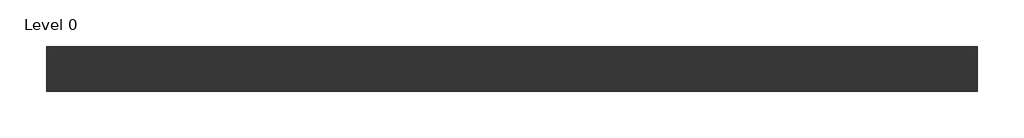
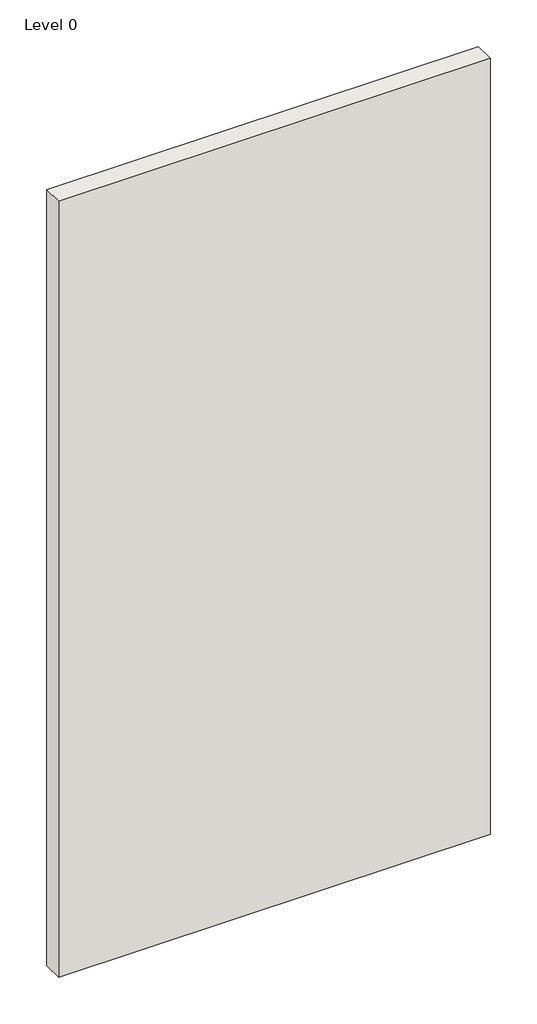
# One storey: 1 wall.
"""IFC4 building model written with IfcOpenShell, lengths in millimetres."""

from ifc_helpers import new_model, si_unit, origin, origin_with_axes, place, context, project, spatial, polyline, outline, extrude, element, save

model = new_model("IFC4")

# Units and contexts
model_context = context("Model", 3, world=origin())
ifc_project = project(units=[si_unit("LENGTHUNIT", "METRE", prefix="MILLI")], contexts=[model_context])

# Site, building, storey
site = spatial("IfcSite", under=ifc_project)
building = spatial("IfcBuilding", under=site)
storey = spatial("IfcBuildingStorey", under=building, Name="Level 0", Elevation=0.0)

# Wall
placement = place(None, origin())
element("IfcWall", 1, ObjectType="A206234 - GypWall CLASSIC", at=placement, inside=storey, context=model_context, shape_type="SweptSolid", body=[
    extrude(outline(polyline([(2116.0807354, 521.7205641), (-883.9192646, 521.7205641), (-883.9192646, 665.7205641), (2116.0807354, 665.7205641), (2116.0807354, 521.7205641)])), origin_with_axes(), (0.0, 0.0, 1.0), 5700.0),
])

save(model, "model.ifc")
